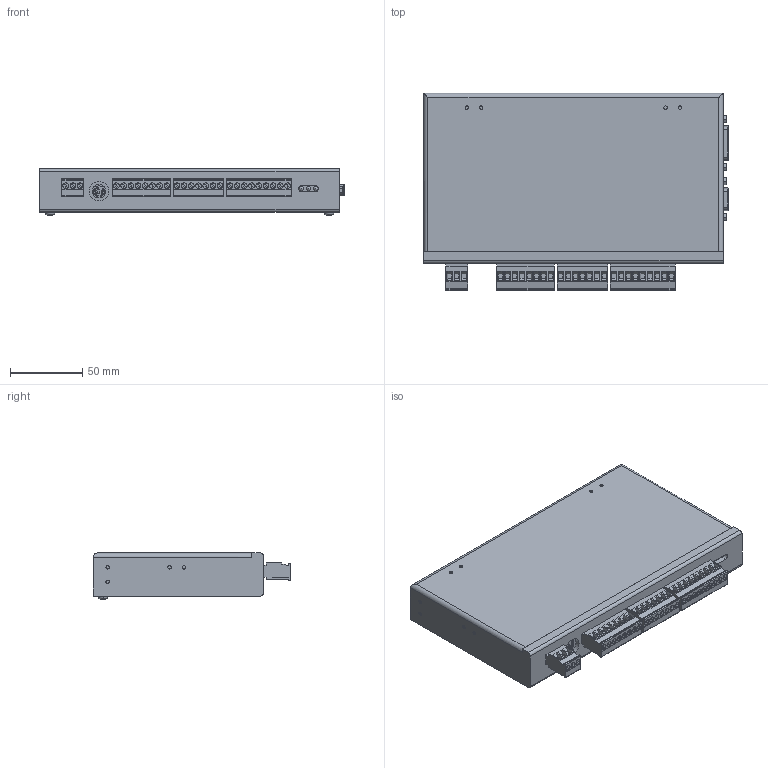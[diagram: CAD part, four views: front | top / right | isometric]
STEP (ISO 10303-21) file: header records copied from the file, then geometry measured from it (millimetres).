
FILE_DESCRIPTION (( 'STEP AP214' ), '1' );
FILE_NAME ('EXC60S.STEP', '2011-10-19T02:17:30', ( 'extion' ), ( '' ), 'SwSTEP 2.0', 'SolidWorks 2010', '' );
FILE_SCHEMA (( 'AUTOMOTIVE_DESIGN' ));
Length unit declared in the file: millimetre
Products named in the file (1): EXC60S
Bounding box: 211.7 x 137.1 x 32 mm (x, y, z)
Volume: 757479.2 mm3; surface area: 86387.9 mm2
Topology: 3 solids, 3 shells, 1253 faces, 3191 edges, 2066 vertices
Faces by surface type: plane 855, cylinder 307, cone 74, torus 14, sphere 3
Entity records: 49014 total; most frequent: CARTESIAN_POINT 6764, DIRECTION 6500, ORIENTED_EDGE 6364, EDGE_CURVE 3182, VECTOR 2276, LINE 2276, AXIS2_PLACEMENT_3D 2112, VERTEX_POINT 2060
